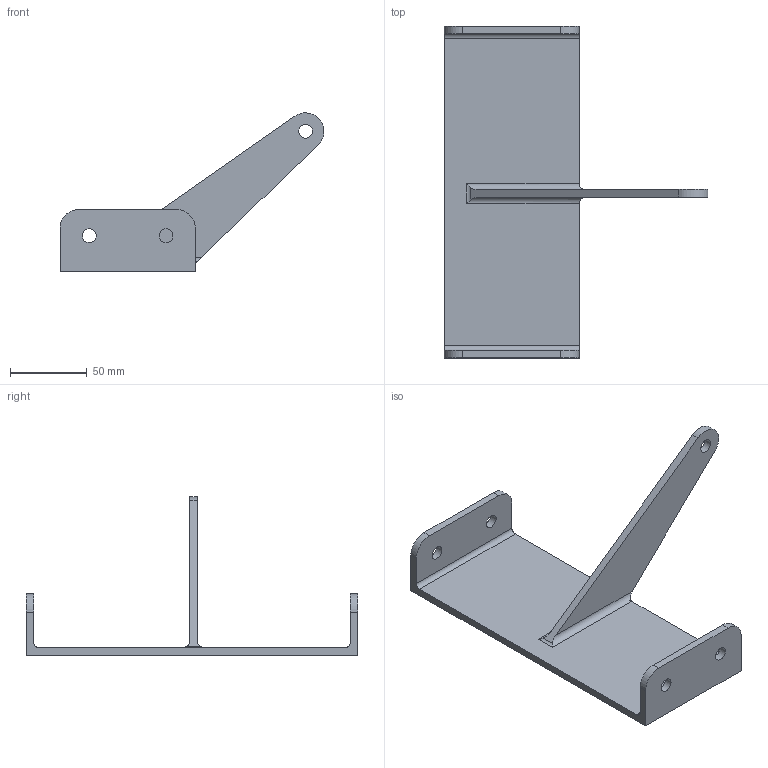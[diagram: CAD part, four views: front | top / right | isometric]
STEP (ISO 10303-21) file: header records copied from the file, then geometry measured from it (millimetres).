
FILE_DESCRIPTION(/* description */ (''),/* implementation_level */ '2;1');
FILE_NAME(/* name */ 'levier_bras_inferieur2.stp',/* time_stamp */ '2026-09-21T15:08:40+02:00',/* author */ (''),/* organization */ (''),/* preprocessor_version */ 'ST-DEVELOPER v20',/* originating_system */ 'SIEMENS PLM Software NX2406.4001',/* authorisation */ '');
FILE_SCHEMA (('AUTOMOTIVE_DESIGN { 1 0 10303 214 3 1 1 1 }'));
Length unit declared in the file: millimetre
Products named in the file (1): levier_bras_inferieur2
Bounding box: 171.78 x 216 x 102.98 mm (x, y, z)
Volume: 149364.5 mm3; surface area: 64522 mm2
Topology: 1 solids, 1 shells, 29 faces, 79 edges, 52 vertices
Faces by surface type: cylinder 15, plane 14
Full cylindrical faces by diameter (mm): 9 x5
Entity records: 946 total; most frequent: DIRECTION 164, CARTESIAN_POINT 156, ORIENTED_EDGE 148, EDGE_CURVE 74, AXIS2_PLACEMENT_3D 60, VERTEX_POINT 52, EDGE_LOOP 44, LINE 44
